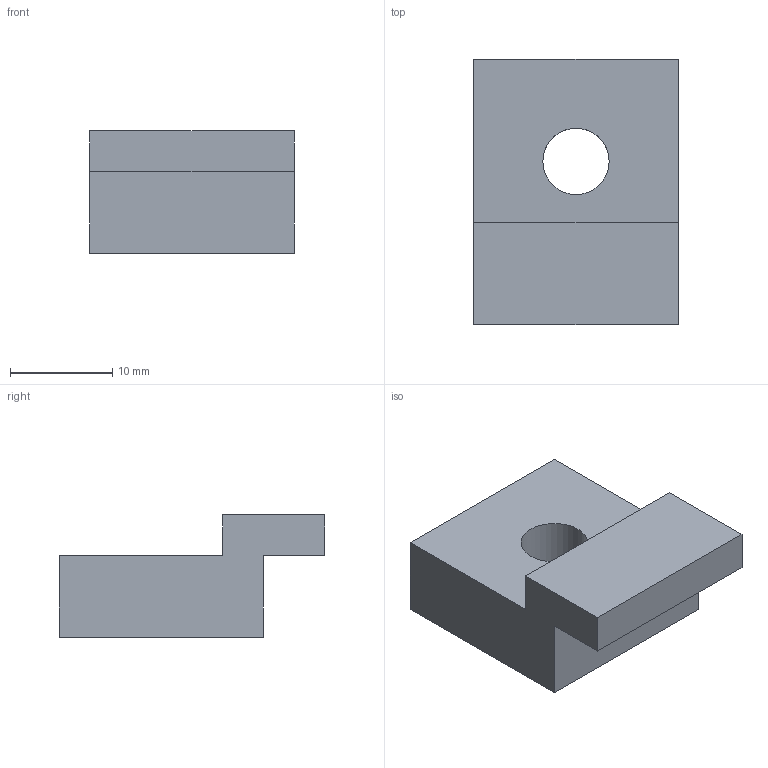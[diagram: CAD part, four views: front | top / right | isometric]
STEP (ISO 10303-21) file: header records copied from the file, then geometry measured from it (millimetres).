
FILE_DESCRIPTION(('Open CASCADE Model'),'2;1');
FILE_NAME('Open CASCADE Shape Model','2026-10-28T05:16:18',('Author'),( 'Open CASCADE'),'Open CASCADE STEP processor 7.8','Open CASCADE 7.8' ,'Unknown');
FILE_SCHEMA(('AUTOMOTIVE_DESIGN { 1 0 10303 214 1 1 1 1 }'));
Length unit declared in the file: millimetre
Products named in the file (1): Open CASCADE STEP translator 7.8 23
Bounding box: 20 x 26 x 12 mm (x, y, z)
Volume: 3734.5 mm3; surface area: 2017 mm2
Topology: 1 solids, 1 shells, 11 faces, 27 edges, 18 vertices
Faces by surface type: plane 10, cylinder 1
Full cylindrical faces by diameter (mm): 6.5 x1
Entity records: 691 total; most frequent: CARTESIAN_POINT 117, DIRECTION 106, LINE 77, VECTOR 77, ORIENTED_EDGE 54, PCURVE 54, DEFINITIONAL_REPRESENTATION 54, EDGE_CURVE 27
